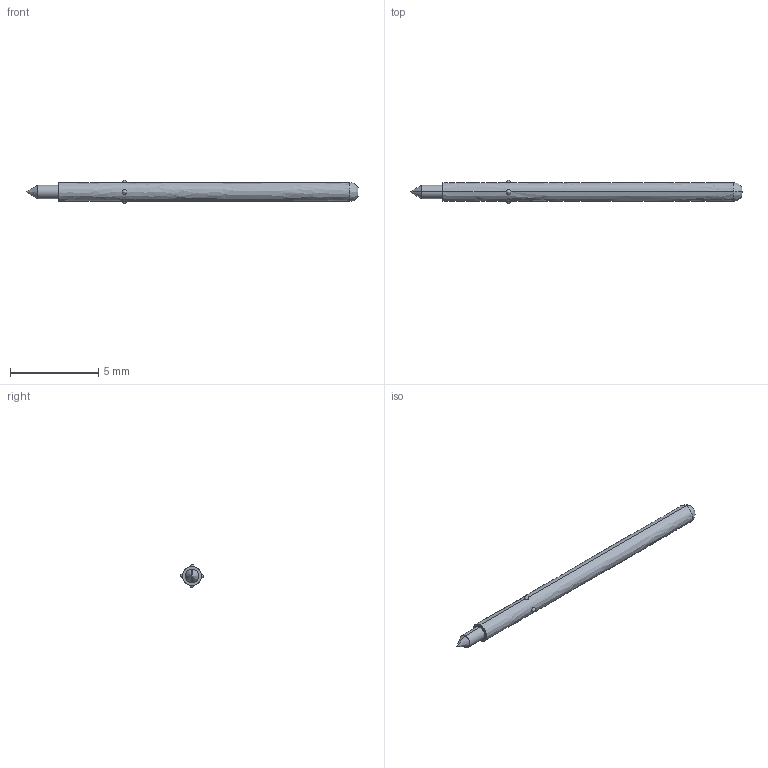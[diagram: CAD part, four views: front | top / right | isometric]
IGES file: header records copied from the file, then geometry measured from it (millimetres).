
Start section: SolidWorks IGES file using analytic representation for surfaces
Global section: file name: O:\PYLON\IGES FILES\P2663\P2663G-1C1S REC'D.IGS; native system: SolidWorks 2015; preprocessor: SolidWorks 2015; author: kgolden; date: 171019.095245; units: inch
Bounding box: 18.82 x 1.32 x 1.32 mm (x, y, z)
Surface area: 66.1 mm2 (no closed solid volume)
Topology: 0 solids, 0 shells, 20 faces, 228 edges, 210 vertices
Faces by surface type: revolution 16, bspline 4
